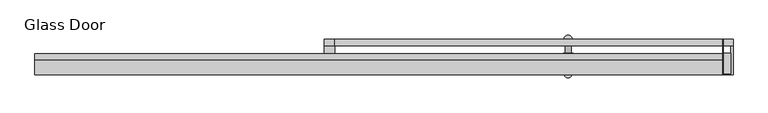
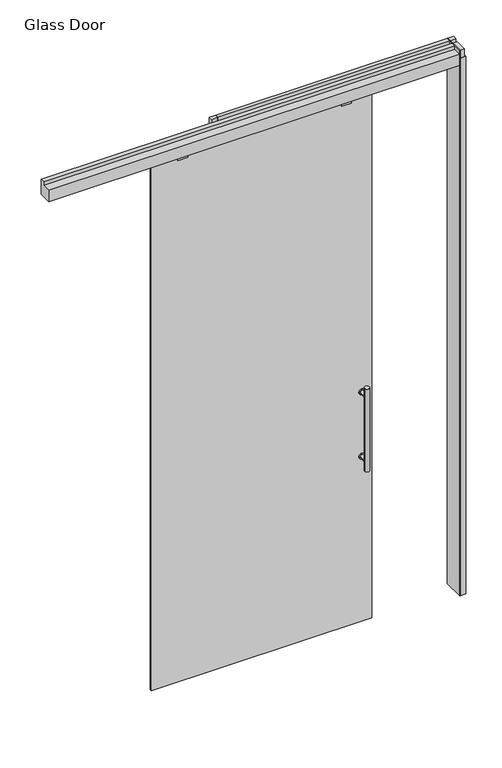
"""IFC4 building model written with IfcOpenShell, lengths in millimetres: plate geometry, Steelcase - Privacy Wall GS - Lite Scale Glazing - Door - Slider - All Glass : Glass Door."""

from ifc_helpers import new_model, si_unit, point, frame, frame_2d, origin, origin_with_axes, place, context, project, spatial, polyline, circle_curve, trimmed, segment, composite_curve, outline, extrude, source, transform, mapped, element, save


def glass_door_9964f78d(model_context):
    return source(origin(), model_context, "Body", "SweptSolid", [
        extrude(outline(composite_curve([segment(trimmed(circle_curve(frame_2d((1267.7758628, 122.9502762)), 15.5007671), [point((1267.7758628, 107.449509))], [point((1267.7758628, 138.4510433))], False, "CARTESIAN"), True, "CONTINUOUS"), segment(trimmed(circle_curve(frame_2d((1267.7758628, 122.9502762)), 15.5007671), [point((1267.7758628, 138.4510433))], [point((1267.7758628, 107.449509))], False, "CARTESIAN"), True, "CONTINUOUS")], self_intersect=False)), frame((0.0, -15.2147122, 0.0), z_axis=(0.0, 1.0, 0.0), x_axis=(0.0, 0.0, 1.0)), (0.0, 0.0, 1.0), 3.556),
        extrude(outline(composite_curve([segment(trimmed(circle_curve(frame_2d((912.5206255, 122.9502762)), 15.5007671), [point((912.5206255, 107.449509))], [point((912.5206255, 138.4510433))], False, "CARTESIAN"), True, "CONTINUOUS"), segment(trimmed(circle_curve(frame_2d((912.5206255, 122.9502762)), 15.5007671), [point((912.5206255, 138.4510433))], [point((912.5206255, 107.449509))], False, "CARTESIAN"), True, "CONTINUOUS")], self_intersect=False)), frame((0.0, -15.2147122, 0.0), z_axis=(0.0, 1.0, 0.0), x_axis=(0.0, 0.0, 1.0)), (0.0, 0.0, 1.0), 3.556),
        extrude(outline(composite_curve([segment(trimmed(circle_curve(frame_2d((912.5206255, 122.9502762)), 9.4326721), [point((912.5206255, 113.5176041))], [point((912.5206255, 132.3829482))], False, "CARTESIAN"), True, "CONTINUOUS"), segment(trimmed(circle_curve(frame_2d((912.5206255, 122.9502762)), 9.4326721), [point((912.5206255, 132.3829482))], [point((912.5206255, 113.5176041))], False, "CARTESIAN"), True, "CONTINUOUS")], self_intersect=False)), frame((0.0, -11.6587122, 0.0), z_axis=(0.0, 1.0, 0.0), x_axis=(0.0, 0.0, 1.0)), (0.0, 0.0, 1.0), 44.4031381),
        extrude(outline(composite_curve([segment(trimmed(circle_curve(frame_2d((1267.7758628, 122.9502762)), 9.4326721), [point((1267.7758628, 113.5176041))], [point((1267.7758628, 132.3829482))], False, "CARTESIAN"), True, "CONTINUOUS"), segment(trimmed(circle_curve(frame_2d((1267.7758628, 122.9502762)), 9.4326721), [point((1267.7758628, 132.3829482))], [point((1267.7758628, 113.5176041))], False, "CARTESIAN"), True, "CONTINUOUS")], self_intersect=False)), frame((0.0, -11.6587122, 0.0), z_axis=(0.0, 1.0, 0.0), x_axis=(0.0, 0.0, 1.0)), (0.0, 0.0, 1.0), 44.4031381),
        extrude(outline(composite_curve([segment(trimmed(circle_curve(frame_2d((122.9502762, 32.7444259)), 12.7), [point((110.2502762, 32.7444259))], [point((135.6502762, 32.7444259))], False, "CARTESIAN"), True, "CONTINUOUS"), segment(trimmed(circle_curve(frame_2d((122.9502762, 32.7444259)), 12.7), [point((135.6502762, 32.7444259))], [point((110.2502762, 32.7444259))], False, "CARTESIAN"), True, "CONTINUOUS")], self_intersect=False)), frame((0.0, 0.0, 861.5482441), z_axis=(0.0, 0.0, 1.0), x_axis=(1.0, 0.0, 0.0)), (0.0, 0.0, 1.0), 457.2),
        extrude(outline(composite_curve([segment(trimmed(circle_curve(frame_2d((1267.7758628, 122.9502762)), 15.5007671), [point((1267.7758628, 107.449509))], [point((1267.7758628, 138.4510433))], False, "CARTESIAN"), True, "CONTINUOUS"), segment(trimmed(circle_curve(frame_2d((1267.7758628, 122.9502762)), 15.5007671), [point((1267.7758628, 138.4510433))], [point((1267.7758628, 107.449509))], False, "CARTESIAN"), True, "CONTINUOUS")], self_intersect=False)), frame((0.0, -31.4707122, 0.0), z_axis=(0.0, 1.0, 0.0), x_axis=(0.0, 0.0, 1.0)), (0.0, 0.0, 1.0), 3.556),
        extrude(outline(composite_curve([segment(trimmed(circle_curve(frame_2d((912.5206255, 122.9502762)), 15.5007671), [point((912.5206255, 107.449509))], [point((912.5206255, 138.4510433))], False, "CARTESIAN"), True, "CONTINUOUS"), segment(trimmed(circle_curve(frame_2d((912.5206255, 122.9502762)), 15.5007671), [point((912.5206255, 138.4510433))], [point((912.5206255, 107.449509))], False, "CARTESIAN"), True, "CONTINUOUS")], self_intersect=False)), frame((0.0, -31.4707122, 0.0), z_axis=(0.0, 1.0, 0.0), x_axis=(0.0, 0.0, 1.0)), (0.0, 0.0, 1.0), 3.556),
        extrude(outline(composite_curve([segment(trimmed(circle_curve(frame_2d((912.5206255, 122.9502762)), 9.4326721), [point((912.5206255, 113.5176041))], [point((912.5206255, 132.3829482))], False, "CARTESIAN"), True, "CONTINUOUS"), segment(trimmed(circle_curve(frame_2d((912.5206255, 122.9502762)), 9.4326721), [point((912.5206255, 132.3829482))], [point((912.5206255, 113.5176041))], False, "CARTESIAN"), True, "CONTINUOUS")], self_intersect=False)), frame((0.0, -75.8738503, 0.0), z_axis=(0.0, 1.0, 0.0), x_axis=(0.0, 0.0, 1.0)), (0.0, 0.0, 1.0), 44.4031381),
        extrude(outline(composite_curve([segment(trimmed(circle_curve(frame_2d((1267.7758628, 122.9502762)), 9.4326721), [point((1267.7758628, 113.5176041))], [point((1267.7758628, 132.3829482))], False, "CARTESIAN"), True, "CONTINUOUS"), segment(trimmed(circle_curve(frame_2d((1267.7758628, 122.9502762)), 9.4326721), [point((1267.7758628, 132.3829482))], [point((1267.7758628, 113.5176041))], False, "CARTESIAN"), True, "CONTINUOUS")], self_intersect=False)), frame((0.0, -75.8738503, 0.0), z_axis=(0.0, 1.0, 0.0), x_axis=(0.0, 0.0, 1.0)), (0.0, 0.0, 1.0), 44.4031381),
        extrude(outline(composite_curve([segment(trimmed(circle_curve(frame_2d((122.9502762, -75.8738503)), 12.7), [point((110.2502762, -75.8738503))], [point((135.6502762, -75.8738503))], False, "CARTESIAN"), True, "CONTINUOUS"), segment(trimmed(circle_curve(frame_2d((122.9502762, -75.8738503)), 12.7), [point((135.6502762, -75.8738503))], [point((110.2502762, -75.8738503))], False, "CARTESIAN"), True, "CONTINUOUS")], self_intersect=False)), frame((0.0, 0.0, 861.5482441), z_axis=(0.0, 0.0, 1.0), x_axis=(1.0, 0.0, 0.0)), (0.0, 0.0, 1.0), 457.2),
        extrude(outline(polyline([(606.4518447, 32.4102878), (608.4838447, 32.4102878), (608.4838447, -78.5748921), (606.4518447, -78.5748921), (606.4518447, 32.4102878)])), origin_with_axes(), (0.0, 0.0, 1.0), 3014.1182131),
        extrude(outline(polyline([(608.4838447, 31.9657855), (638.6908247, 31.9657855), (638.6908247, 11.7473709), (608.4838447, 11.7473709), (608.4838447, 31.9657855)])), frame((0.0, 0.0, 2970.784), z_axis=(0.0, 0.0, 1.0), x_axis=(1.0, 0.0, 0.0)), (0.0, 0.0, 1.0), 43.3342131),
        extrude(outline(polyline([(630.9438247, -11.7476378), (630.9438247, -76.5428917), (608.4838447, -76.5428917), (608.4838447, -11.7476378), (630.9438247, -11.7476378)])), frame((0.0, 0.0, 2970.784), z_axis=(0.0, 0.0, 1.0), x_axis=(1.0, 0.0, 0.0)), (0.0, 0.0, 1.0), 43.3342131),
        extrude(outline(polyline([(638.6908247, 32.4102878), (638.6908247, -78.5748921), (608.4838447, -78.5748921), (608.4838447, -76.5428917), (630.9438247, -76.5428917), (630.9438247, 30.3782748), (608.4838447, 30.3782748), (608.4838447, 32.4102878), (638.6908247, 32.4102878)])), origin_with_axes(), (0.0, 0.0, 1.0), 2970.784),
        extrude(outline(polyline([(-638.6908247, 32.4102878), (-606.4518447, 32.4102878), (-606.4518447, -12.394152), (-638.6908247, -12.394152), (-638.6908247, 32.4102878)])), origin_with_axes(), (0.0, 0.0, 1.0), 2970.784),
        extrude(outline(polyline([(606.4518447, 31.9657855), (606.4518447, 11.7473709), (-606.4518447, 11.7473709), (-606.4518447, 31.9657855), (606.4518447, 31.9657855)])), frame((0.0, 0.0, 2931.5682131), z_axis=(0.0, 0.0, 1.0), x_axis=(1.0, 0.0, 0.0)), (0.0, 0.0, 1.0), 82.55),
        extrude(outline(polyline([(-638.6908247, 31.9657855), (-606.4518447, 31.9657855), (-606.4518447, 11.7473709), (-638.6908247, 11.7473709), (-638.6908247, 31.9657855)])), frame((0.0, 0.0, 2970.784), z_axis=(0.0, 0.0, 1.0), x_axis=(1.0, 0.0, 0.0)), (0.0, 0.0, 1.0), 43.3342131),
        extrude(outline(polyline([(-790.9860173, -36.1536677), (-842.1178747, -36.1536677), (-842.1178747, -27.9147122), (-790.9860173, -27.9147122), (-790.9860173, -36.1536677)])), frame((0.0, 0.0, 2886.7099031), z_axis=(0.0, 0.0, 1.0), x_axis=(1.0, 0.0, 0.0)), (0.0, 0.0, 1.0), 44.85831),
        extrude(outline(polyline([(65.0127702, -36.1536677), (14.2128187, -36.1536677), (14.2128187, -27.9147122), (65.0127702, -27.9147122), (65.0127702, -36.1536677)])), frame((0.0, 0.0, 2886.7099031), z_axis=(0.0, 0.0, 1.0), x_axis=(1.0, 0.0, 0.0)), (0.0, 0.0, 1.0), 44.85831),
        extrude(outline(polyline([(-32.9183918, 3014.1182131), (-12.7000057, 3014.1182131), (-12.7000057, 2931.5682131), (-78.5748921, 2931.5682131), (-78.5748921, 2993.2122202), (-32.9183918, 2993.2122202), (-32.9183918, 3014.1182131)])), frame((-1543.0799822, 0.0, 0.0), z_axis=(1.0, 0.0, 0.0), x_axis=(0.0, 1.0, 0.0)), (0.0, 0.0, 1.0), 2149.5318269),
        extrude(outline(polyline([(176.8490762, -27.9147122), (-977.3712158, -27.9147122), (-977.3712158, -17.7868078), (176.8490762, -17.7868078), (176.8490762, -27.9147122)])), origin_with_axes(), (0.0, 0.0, 1.0), 2931.5682131),
    ])


if __name__ == "__main__":
    model = new_model("IFC4")
    model_context = context("Model", 3, world=origin())
    ifc_project = project(units=[si_unit("LENGTHUNIT", "METRE", prefix="MILLI")], contexts=[model_context])
    site = spatial("IfcSite", under=ifc_project)
    building = spatial("IfcBuilding", under=site)
    placement = place(None, origin())
    glass_door_shape = glass_door_9964f78d(model_context)
    element("IfcPlate", 1, ObjectType="Steelcase - Privacy Wall GS - Lite Scale Glazing - Door - Slider - All Glass : Glass Door", at=placement, inside=building, context=model_context, shape_type="MappedRepresentation", body=[
        mapped(glass_door_shape, transform((0.0, 0.0, 0.0), x_axis=(1.0, 0.0, 0.0), y_axis=(0.0, 1.0, 0.0), z_axis=(0.0, 0.0, 1.0))),
    ])
    save(model, "model.ifc")
